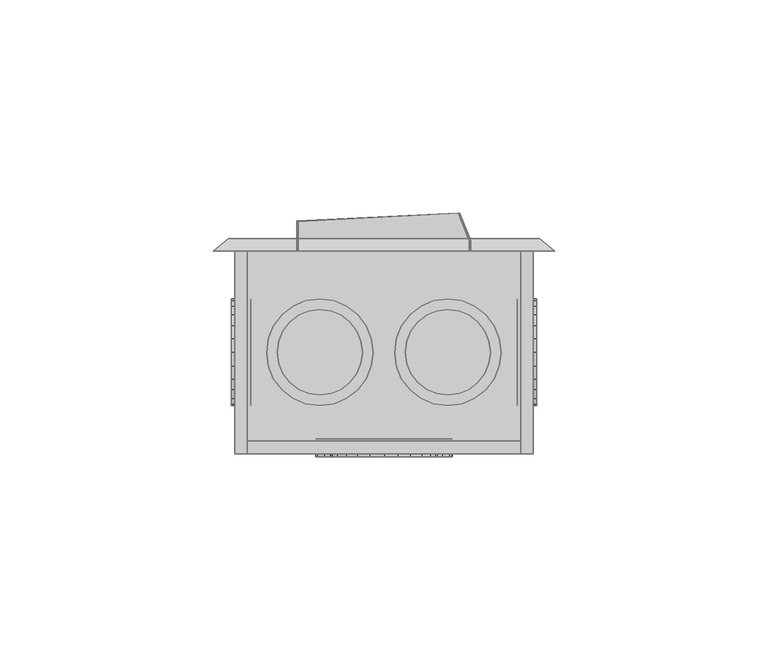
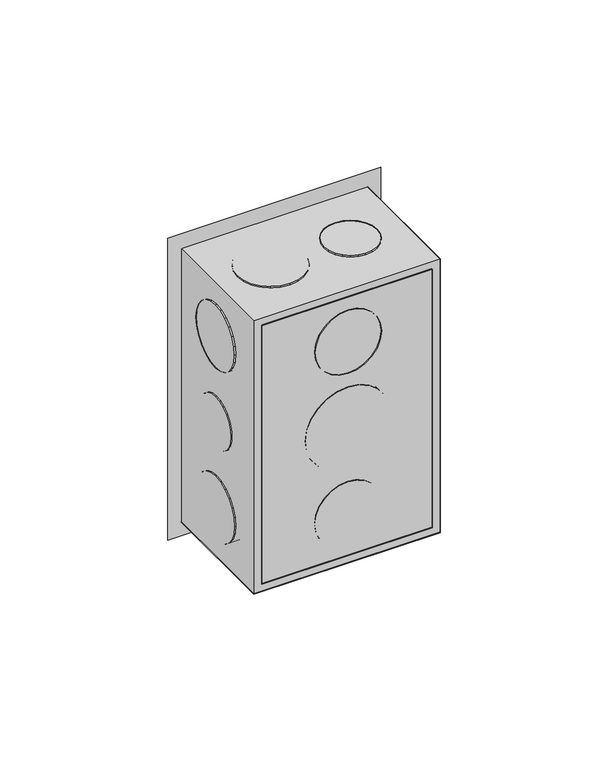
"""IFC4 building model written with IfcOpenShell, lengths in millimetres: proxy geometry,  211059 :  211059."""

from ifc_helpers import new_model, si_unit, origin, place, context, project, spatial, triangles, source, transform, mapped, element, save


def generic_models_d2d7d152(model_context):
    return source(origin(), model_context, "Body", "Tessellation", [
        triangles([(13107.0999573, 13245.8996246, 1254.3000378), (13110.0997742, 13245.8996246, 1148.7000154), (13107.0999573, 13245.8996246, 1145.6999805), (13110.0997742, 13245.8996246, 1251.2999302), (13177.1003357, 13245.8996246, 1254.3000378), (13174.1005188, 13245.8996246, 1251.2999302), (13177.1003357, 13245.8996246, 1145.6999805), (13174.1005188, 13245.8996246, 1148.7000154), (13110.0997742, 13198.4001984, 1251.2999302), (13110.0997742, 13198.4001984, 1148.7000154), (13177.1003357, 13198.4001984, 1254.3000378), (13177.1003357, 13198.4001984, 1145.6999805), (13174.1005188, 13198.4001984, 1251.2999302), (13107.0999573, 13198.4001984, 1145.6999805), (13174.1005188, 13198.4001984, 1148.7000154), (13107.0999573, 13198.4001984, 1254.3000378), (13110.0997742, 13201.4000153, 1251.2999302), (13174.1005188, 13201.4000153, 1148.7000154), (13110.0997742, 13201.4000153, 1148.7000154), (13174.1005188, 13201.4000153, 1251.2999302), (13134.099472, 13197.7002411, 1186.0999855), (13128.1998322, 13197.7002411, 1191.9999887), (13130.7996735, 13197.7002411, 1188.6999722), (13137.9004028, 13197.7002411, 1184.5000105), (13126.5999298, 13197.7002411, 1195.8999687), (13142.1001465, 13197.7002411, 1183.9999683), (13126.0999603, 13197.7002411, 1200.0000092), (13146.1998962, 13197.7002411, 1184.5000105), (13126.5999298, 13197.7002411, 1204.0999769), (13150.0996582, 13197.7002411, 1186.0999855), (13128.1998322, 13197.7002411, 1208.0000296), (13153.3994568, 13197.7002411, 1188.6999722), (13130.7996735, 13197.7002411, 1211.2999735), (13155.9004669, 13197.7002411, 1191.9999887), (13134.099472, 13197.7002411, 1213.9000328), (13157.5003693, 13197.7002411, 1195.8999687), (13137.9004028, 13197.7002411, 1215.5000078), (13158.1003326, 13197.7002411, 1200.0000092), (13142.1001465, 13197.7002411, 1215.9999773), (13157.5003693, 13197.7002411, 1204.0999769), (13146.1998962, 13197.7002411, 1215.5000078), (13155.9004669, 13197.7002411, 1208.0000296), (13150.0996582, 13197.7002411, 1213.9000328), (13153.3994568, 13197.7002411, 1211.2999735), (13137.9004028, 13201.8999847, 1215.5000078), (13142.1001465, 13201.8999847, 1215.9999773), (13134.099472, 13201.8999847, 1213.9000328), (13130.7996735, 13201.8999847, 1211.2999735), (13128.1998322, 13201.8999847, 1208.0000296), (13126.5999298, 13201.8999847, 1204.0999769), (13126.0999603, 13201.8999847, 1200.0000092), (13126.5999298, 13201.8999847, 1195.8999687), (13128.1998322, 13201.8999847, 1191.9999887), (13130.7996735, 13201.8999847, 1188.6999722), (13134.099472, 13201.8999847, 1186.0999855), (13137.9004028, 13201.8999847, 1184.5000105), (13142.1001465, 13201.8999847, 1183.9999683), (13146.1998962, 13201.8999847, 1184.5000105), (13150.0996582, 13201.8999847, 1186.0999855), (13153.3994568, 13201.8999847, 1188.6999722), (13155.9004669, 13201.8999847, 1191.9999887), (13157.5003693, 13201.8999847, 1195.8999687), (13158.1003326, 13201.8999847, 1200.0000092), (13157.5003693, 13201.8999847, 1204.0999769), (13155.9004669, 13201.8999847, 1208.0000296), (13153.3994568, 13201.8999847, 1211.2999735), (13150.0996582, 13201.8999847, 1213.9000328), (13146.1998962, 13201.8999847, 1215.5000078), (13131.199649, 13201.8999847, 1227.8000565), (13135.800531, 13201.8999847, 1223.2000465), (13133.199527, 13201.8999847, 1225.2000698), (13129.9997223, 13201.8999847, 1230.8000187), (13138.8003479, 13201.8999847, 1221.8999805), (13129.5997467, 13201.8999847, 1233.9999687), (13142.1001465, 13201.8999847, 1221.500005), (13129.9997223, 13201.8999847, 1237.2000641), (13145.2999512, 13201.8999847, 1221.8999805), (13131.199649, 13201.8999847, 1240.3000202), (13148.2997681, 13201.8999847, 1223.2000465), (13133.199527, 13201.8999847, 1242.800013), (13150.8996094, 13201.8999847, 1225.2000698), (13152.8994873, 13201.8999847, 1227.8000565), (13135.800531, 13201.8999847, 1244.8000362), (13138.8003479, 13201.8999847, 1246.0999569), (13154.1005768, 13201.8999847, 1230.8000187), (13142.1001465, 13201.8999847, 1246.4999325), (13154.6005463, 13201.8999847, 1233.9999687), (13145.2999512, 13201.8999847, 1246.0999569), (13154.1005768, 13201.8999847, 1237.2000641), (13152.8994873, 13201.8999847, 1240.3000202), (13148.2997681, 13201.8999847, 1244.8000362), (13150.8996094, 13201.8999847, 1242.800013), (13154.1005768, 13197.7002411, 1230.8000187), (13152.8994873, 13197.7002411, 1227.8000565), (13150.8996094, 13197.7002411, 1225.2000698), (13148.2997681, 13197.7002411, 1223.2000465), (13145.2999512, 13197.7002411, 1221.8999805), (13142.1001465, 13197.7002411, 1221.500005), (13138.8003479, 13197.7002411, 1221.8999805), (13135.800531, 13197.7002411, 1223.2000465), (13133.199527, 13197.7002411, 1225.2000698), (13131.199649, 13197.7002411, 1227.8000565), (13129.9997223, 13197.7002411, 1230.8000187), (13129.5997467, 13197.7002411, 1233.9999687), (13129.9997223, 13197.7002411, 1237.2000641), (13131.199649, 13197.7002411, 1240.3000202), (13133.199527, 13197.7002411, 1242.800013), (13135.800531, 13197.7002411, 1244.8000362), (13138.8003479, 13197.7002411, 1246.0999569), (13142.1001465, 13197.7002411, 1246.4999325), (13145.2999512, 13197.7002411, 1246.0999569), (13148.2997681, 13197.7002411, 1244.8000362), (13150.8996094, 13197.7002411, 1242.800013), (13152.8994873, 13197.7002411, 1240.3000202), (13154.1005768, 13197.7002411, 1237.2000641), (13154.6005463, 13197.7002411, 1233.9999687), (13135.800531, 13197.7002411, 1155.1999821), (13131.199649, 13197.7002411, 1159.6999981), (13133.199527, 13197.7002411, 1157.2000053), (13138.8003479, 13197.7002411, 1153.8999887), (13129.9997223, 13197.7002411, 1162.8000269), (13142.1001465, 13197.7002411, 1153.5000132), (13129.5997467, 13197.7002411, 1165.9999769), (13145.2999512, 13197.7002411, 1153.8999887), (13129.9997223, 13197.7002411, 1169.1999996), (13148.2997681, 13197.7002411, 1155.1999821), (13131.199649, 13197.7002411, 1172.2000345), (13150.8996094, 13197.7002411, 1157.2000053), (13133.199527, 13197.7002411, 1174.8000212), (13152.8994873, 13197.7002411, 1159.6999981), (13135.800531, 13197.7002411, 1176.7999718), (13154.1005768, 13197.7002411, 1162.8000269), (13138.8003479, 13197.7002411, 1178.0999651), (13142.1001465, 13197.7002411, 1178.5000134), (13154.6005463, 13197.7002411, 1165.9999769), (13154.1005768, 13197.7002411, 1169.1999996), (13145.2999512, 13197.7002411, 1178.0999651), (13152.8994873, 13197.7002411, 1172.2000345), (13148.2997681, 13197.7002411, 1176.7999718), (13150.8996094, 13197.7002411, 1174.8000212), (13138.8003479, 13201.8999847, 1178.0999651), (13142.1001465, 13201.8999847, 1178.5000134), (13135.800531, 13201.8999847, 1176.7999718), (13133.199527, 13201.8999847, 1174.8000212), (13131.199649, 13201.8999847, 1172.2000345), (13129.9997223, 13201.8999847, 1169.1999996), (13129.5997467, 13201.8999847, 1165.9999769), (13129.9997223, 13201.8999847, 1162.8000269), (13131.199649, 13201.8999847, 1159.6999981), (13133.199527, 13201.8999847, 1157.2000053), (13135.800531, 13201.8999847, 1155.1999821), (13138.8003479, 13201.8999847, 1153.8999887), (13142.1001465, 13201.8999847, 1153.5000132), (13145.2999512, 13201.8999847, 1153.8999887), (13148.2997681, 13201.8999847, 1155.1999821), (13150.8996094, 13201.8999847, 1157.2000053), (13152.8994873, 13201.8999847, 1159.6999981), (13154.1005768, 13201.8999847, 1162.8000269), (13154.6005463, 13201.8999847, 1165.9999769), (13154.1005768, 13201.8999847, 1169.1999996), (13152.8994873, 13201.8999847, 1172.2000345), (13150.8996094, 13201.8999847, 1174.8000212), (13148.2997681, 13201.8999847, 1176.7999718), (13145.2999512, 13201.8999847, 1178.0999651), (13106.3000061, 13213.5004395, 1195.0000237), (13106.3000061, 13217.2002136, 1191.3000315), (13106.3000061, 13215.1003418, 1192.9000065), (13106.3000061, 13212.5005005, 1197.4000225), (13106.3000061, 13219.6000671, 1190.3000198), (13106.3000061, 13212.2005188, 1200.0000092), (13106.3000061, 13222.1999084, 1189.9999655), (13106.3000061, 13212.5005005, 1202.5999958), (13106.3000061, 13224.7997498, 1190.3000198), (13106.3000061, 13213.5004395, 1204.9999947), (13106.3000061, 13227.1996033, 1191.3000315), (13106.3000061, 13215.1003418, 1207.1000118), (13106.3000061, 13229.2994751, 1192.9000065), (13106.3000061, 13217.2002136, 1208.6999868), (13106.3000061, 13230.9005402, 1195.0000237), (13106.3000061, 13219.6000671, 1209.6999985), (13106.3000061, 13231.9004791, 1197.4000225), (13106.3000061, 13232.2004608, 1200.0000092), (13106.3000061, 13222.1999084, 1209.9999802), (13106.3000061, 13224.7997498, 1209.6999985), (13106.3000061, 13231.9004791, 1202.5999958), (13106.3000061, 13227.1996033, 1208.6999868), (13106.3000061, 13230.9005402, 1204.9999947), (13106.3000061, 13229.2994751, 1207.1000118), (13110.8997253, 13219.6000671, 1209.6999985), (13110.8997253, 13222.1999084, 1209.9999802), (13110.8997253, 13224.7997498, 1209.6999985), (13110.8997253, 13227.1996033, 1208.6999868), (13110.8997253, 13229.2994751, 1207.1000118), (13110.8997253, 13230.9005402, 1204.9999947), (13110.8997253, 13231.9004791, 1202.5999958), (13110.8997253, 13232.2004608, 1200.0000092), (13110.8997253, 13231.9004791, 1197.4000225), (13110.8997253, 13230.9005402, 1195.0000237), (13110.8997253, 13229.2994751, 1192.9000065), (13110.8997253, 13227.1996033, 1191.3000315), (13110.8997253, 13224.7997498, 1190.3000198), (13110.8997253, 13222.1999084, 1189.9999655), (13110.8997253, 13219.6000671, 1190.3000198), (13110.8997253, 13217.2002136, 1191.3000315), (13110.8997253, 13215.1003418, 1192.9000065), (13110.8997253, 13213.5004395, 1195.0000237), (13110.8997253, 13212.5005005, 1197.4000225), (13110.8997253, 13212.2005188, 1200.0000092), (13110.8997253, 13212.5005005, 1202.5999958), (13110.8997253, 13213.5004395, 1204.9999947), (13110.8997253, 13215.1003418, 1207.1000118), (13110.8997253, 13217.2002136, 1208.6999868), (13110.8997253, 13215.900293, 1223.2000465), (13110.8997253, 13211.4005676, 1227.8000565), (13110.8997253, 13213.4004456, 1225.2000698), (13110.8997253, 13219.0001038, 1221.8999805), (13110.8997253, 13210.0994843, 1230.8000187), (13110.8997253, 13209.6995087, 1233.9999687), (13110.8997253, 13222.1999084, 1221.500005), (13110.8997253, 13225.3997131, 1221.8999805), (13110.8997253, 13210.0994843, 1237.2000641), (13110.8997253, 13211.4005676, 1240.3000202), (13110.8997253, 13228.39953, 1223.2000465), (13110.8997253, 13231.0005341, 1225.2000698), (13110.8997253, 13213.4004456, 1242.800013), (13110.8997253, 13233.000412, 1227.8000565), (13110.8997253, 13215.900293, 1244.8000362), (13110.8997253, 13234.3003326, 1230.8000187), (13110.8997253, 13219.0001038, 1246.0999569), (13110.8997253, 13234.7003082, 1233.9999687), (13110.8997253, 13222.1999084, 1246.4999325), (13110.8997253, 13234.3003326, 1237.2000641), (13110.8997253, 13225.3997131, 1246.0999569), (13110.8997253, 13233.000412, 1240.3000202), (13110.8997253, 13228.39953, 1244.8000362), (13110.8997253, 13231.0005341, 1242.800013), (13106.3000061, 13222.1999084, 1221.500005), (13106.3000061, 13219.0001038, 1221.8999805), (13106.3000061, 13225.3997131, 1221.8999805), (13106.3000061, 13228.39953, 1223.2000465), (13106.3000061, 13231.0005341, 1225.2000698), (13106.3000061, 13233.000412, 1227.8000565), (13106.3000061, 13234.3003326, 1230.8000187), (13106.3000061, 13234.7003082, 1233.9999687), (13106.3000061, 13234.3003326, 1237.2000641), (13106.3000061, 13233.000412, 1240.3000202), (13106.3000061, 13231.0005341, 1242.800013), (13106.3000061, 13228.39953, 1244.8000362), (13106.3000061, 13225.3997131, 1246.0999569), (13106.3000061, 13222.1999084, 1246.4999325), (13106.3000061, 13219.0001038, 1246.0999569), (13106.3000061, 13215.900293, 1244.8000362), (13106.3000061, 13213.4004456, 1242.800013), (13106.3000061, 13211.4005676, 1240.3000202), (13106.3000061, 13210.0994843, 1237.2000641), (13106.3000061, 13209.6995087, 1233.9999687), (13106.3000061, 13210.0994843, 1230.8000187), (13106.3000061, 13211.4005676, 1227.8000565), (13106.3000061, 13213.4004456, 1225.2000698), (13106.3000061, 13215.900293, 1223.2000465), (13106.3000061, 13211.4005676, 1159.6999981), (13106.3000061, 13215.900293, 1155.1999821), (13106.3000061, 13213.4004456, 1157.2000053), (13106.3000061, 13210.0994843, 1162.8000269), (13106.3000061, 13219.0001038, 1153.8999887), (13106.3000061, 13209.6995087, 1165.9999769), (13106.3000061, 13222.1999084, 1153.5000132), (13106.3000061, 13210.0994843, 1169.1999996), (13106.3000061, 13225.3997131, 1153.8999887), (13106.3000061, 13211.4005676, 1172.2000345), (13106.3000061, 13228.39953, 1155.1999821), (13106.3000061, 13213.4004456, 1174.8000212), (13106.3000061, 13231.0005341, 1157.2000053), (13106.3000061, 13215.900293, 1176.7999718), (13106.3000061, 13233.000412, 1159.6999981), (13106.3000061, 13219.0001038, 1178.0999651), (13106.3000061, 13234.3003326, 1162.8000269), (13106.3000061, 13222.1999084, 1178.5000134), (13106.3000061, 13234.7003082, 1165.9999769), (13106.3000061, 13225.3997131, 1178.0999651), (13106.3000061, 13234.3003326, 1169.1999996), (13106.3000061, 13228.39953, 1176.7999718), (13106.3000061, 13233.000412, 1172.2000345), (13106.3000061, 13231.0005341, 1174.8000212), (13110.8997253, 13219.0001038, 1178.0999651), (13110.8997253, 13222.1999084, 1178.5000134), (13110.8997253, 13225.3997131, 1178.0999651), (13110.8997253, 13228.39953, 1176.7999718), (13110.8997253, 13231.0005341, 1174.8000212), (13110.8997253, 13233.000412, 1172.2000345), (13110.8997253, 13234.3003326, 1169.1999996), (13110.8997253, 13234.7003082, 1165.9999769), (13110.8997253, 13234.3003326, 1162.8000269), (13110.8997253, 13233.000412, 1159.6999981), (13110.8997253, 13231.0005341, 1157.2000053), (13110.8997253, 13228.39953, 1155.1999821), (13110.8997253, 13225.3997131, 1153.8999887), (13110.8997253, 13222.1999084, 1153.5000132), (13110.8997253, 13219.0001038, 1153.8999887), (13110.8997253, 13215.900293, 1155.1999821), (13110.8997253, 13213.4004456, 1157.2000053), (13110.8997253, 13211.4005676, 1159.6999981), (13110.8997253, 13210.0994843, 1162.8000269), (13110.8997253, 13209.6995087, 1165.9999769), (13110.8997253, 13210.0994843, 1169.1999996), (13110.8997253, 13211.4005676, 1172.2000345), (13110.8997253, 13213.4004456, 1174.8000212), (13110.8997253, 13215.900293, 1176.7999718), (13177.9002869, 13217.2002136, 1191.3000315), (13177.9002869, 13213.5004395, 1195.0000237), (13177.9002869, 13215.1003418, 1192.9000065), (13177.9002869, 13212.5005005, 1197.4000225), (13177.9002869, 13219.6000671, 1190.3000198), (13177.9002869, 13212.2005188, 1200.0000092), (13177.9002869, 13222.1999084, 1189.9999655), (13177.9002869, 13224.7997498, 1190.3000198), (13177.9002869, 13212.5005005, 1202.5999958), (13177.9002869, 13213.5004395, 1204.9999947), (13177.9002869, 13227.1996033, 1191.3000315), (13177.9002869, 13215.1003418, 1207.1000118), (13177.9002869, 13229.2994751, 1192.9000065), (13177.9002869, 13230.9005402, 1195.0000237), (13177.9002869, 13217.2002136, 1208.6999868), (13177.9002869, 13231.9004791, 1197.4000225), (13177.9002869, 13219.6000671, 1209.6999985), (13177.9002869, 13232.2004608, 1200.0000092), (13177.9002869, 13222.1999084, 1209.9999802), (13177.9002869, 13231.9004791, 1202.5999958), (13177.9002869, 13224.7997498, 1209.6999985), (13177.9002869, 13227.1996033, 1208.6999868), (13177.9002869, 13230.9005402, 1204.9999947), (13177.9002869, 13229.2994751, 1207.1000118), (13173.3005676, 13219.6000671, 1190.3000198), (13173.3005676, 13217.2002136, 1191.3000315), (13173.3005676, 13222.1999084, 1189.9999655), (13173.3005676, 13224.7997498, 1190.3000198), (13173.3005676, 13227.1996033, 1191.3000315), (13173.3005676, 13229.2994751, 1192.9000065), (13173.3005676, 13230.9005402, 1195.0000237), (13173.3005676, 13231.9004791, 1197.4000225), (13173.3005676, 13232.2004608, 1200.0000092), (13173.3005676, 13231.9004791, 1202.5999958), (13173.3005676, 13230.9005402, 1204.9999947), (13173.3005676, 13229.2994751, 1207.1000118), (13173.3005676, 13227.1996033, 1208.6999868), (13173.3005676, 13224.7997498, 1209.6999985), (13173.3005676, 13222.1999084, 1209.9999802), (13173.3005676, 13219.6000671, 1209.6999985), (13173.3005676, 13217.2002136, 1208.6999868), (13173.3005676, 13215.1003418, 1207.1000118), (13173.3005676, 13213.5004395, 1204.9999947), (13173.3005676, 13212.5005005, 1202.5999958), (13173.3005676, 13212.2005188, 1200.0000092), (13173.3005676, 13212.5005005, 1197.4000225), (13173.3005676, 13213.5004395, 1195.0000237), (13173.3005676, 13215.1003418, 1192.9000065), (13173.3005676, 13211.4005676, 1159.6999981), (13173.3005676, 13215.900293, 1155.1999821), (13173.3005676, 13213.4004456, 1157.2000053), (13173.3005676, 13210.0994843, 1162.8000269), (13173.3005676, 13219.0001038, 1153.8999887), (13173.3005676, 13209.6995087, 1165.9999769), (13173.3005676, 13222.1999084, 1153.5000132), (13173.3005676, 13210.0994843, 1169.1999996), (13173.3005676, 13225.3997131, 1153.8999887), (13173.3005676, 13211.4005676, 1172.2000345), (13173.3005676, 13228.39953, 1155.1999821), (13173.3005676, 13213.4004456, 1174.8000212), (13173.3005676, 13231.0005341, 1157.2000053), (13173.3005676, 13215.900293, 1176.7999718), (13173.3005676, 13233.000412, 1159.6999981), (13173.3005676, 13219.0001038, 1178.0999651), (13173.3005676, 13234.3003326, 1162.8000269), (13173.3005676, 13222.1999084, 1178.5000134), (13173.3005676, 13234.7003082, 1165.9999769), (13173.3005676, 13225.3997131, 1178.0999651), (13173.3005676, 13234.3003326, 1169.1999996), (13173.3005676, 13228.39953, 1176.7999718), (13173.3005676, 13233.000412, 1172.2000345), (13173.3005676, 13231.0005341, 1174.8000212), (13177.9002869, 13219.0001038, 1178.0999651), (13177.9002869, 13222.1999084, 1178.5000134), (13177.9002869, 13225.3997131, 1178.0999651), (13177.9002869, 13228.39953, 1176.7999718), (13177.9002869, 13231.0005341, 1174.8000212), (13177.9002869, 13233.000412, 1172.2000345), (13177.9002869, 13234.3003326, 1169.1999996), (13177.9002869, 13234.7003082, 1165.9999769), (13177.9002869, 13234.3003326, 1162.8000269), (13177.9002869, 13233.000412, 1159.6999981), (13177.9002869, 13231.0005341, 1157.2000053), (13177.9002869, 13228.39953, 1155.1999821), (13177.9002869, 13225.3997131, 1153.8999887), (13177.9002869, 13222.1999084, 1153.5000132), (13177.9002869, 13219.0001038, 1153.8999887), (13177.9002869, 13215.900293, 1155.1999821), (13177.9002869, 13213.4004456, 1157.2000053), (13177.9002869, 13211.4005676, 1159.6999981), (13177.9002869, 13210.0994843, 1162.8000269), (13177.9002869, 13209.6995087, 1165.9999769), (13177.9002869, 13210.0994843, 1169.1999996), (13177.9002869, 13211.4005676, 1172.2000345), (13177.9002869, 13213.4004456, 1174.8000212), (13177.9002869, 13215.900293, 1176.7999718), (13177.9002869, 13215.900293, 1223.2000465), (13177.9002869, 13211.4005676, 1227.8000565), (13177.9002869, 13213.4004456, 1225.2000698), (13177.9002869, 13219.0001038, 1221.8999805), (13177.9002869, 13210.0994843, 1230.8000187), (13177.9002869, 13209.6995087, 1233.9999687), (13177.9002869, 13222.1999084, 1221.500005), (13177.9002869, 13225.3997131, 1221.8999805), (13177.9002869, 13210.0994843, 1237.2000641), (13177.9002869, 13211.4005676, 1240.3000202), (13177.9002869, 13228.39953, 1223.2000465), (13177.9002869, 13231.0005341, 1225.2000698), (13177.9002869, 13213.4004456, 1242.800013), (13177.9002869, 13233.000412, 1227.8000565), (13177.9002869, 13215.900293, 1244.8000362), (13177.9002869, 13234.3003326, 1230.8000187), (13177.9002869, 13219.0001038, 1246.0999569), (13177.9002869, 13234.7003082, 1233.9999687), (13177.9002869, 13222.1999084, 1246.4999325), (13177.9002869, 13234.3003326, 1237.2000641), (13177.9002869, 13225.3997131, 1246.0999569), (13177.9002869, 13233.000412, 1240.3000202), (13177.9002869, 13228.39953, 1244.8000362), (13177.9002869, 13231.0005341, 1242.800013), (13173.3005676, 13222.1999084, 1221.500005), (13173.3005676, 13219.0001038, 1221.8999805), (13173.3005676, 13225.3997131, 1221.8999805), (13173.3005676, 13228.39953, 1223.2000465), (13173.3005676, 13231.0005341, 1225.2000698), (13173.3005676, 13233.000412, 1227.8000565), (13173.3005676, 13234.3003326, 1230.8000187), (13173.3005676, 13234.7003082, 1233.9999687), (13173.3005676, 13234.3003326, 1237.2000641), (13173.3005676, 13233.000412, 1240.3000202), (13173.3005676, 13231.0005341, 1242.800013), (13173.3005676, 13228.39953, 1244.8000362), (13173.3005676, 13225.3997131, 1246.0999569), (13173.3005676, 13222.1999084, 1246.4999325), (13173.3005676, 13219.0001038, 1246.0999569), (13173.3005676, 13215.900293, 1244.8000362), (13173.3005676, 13213.4004456, 1242.800013), (13173.3005676, 13211.4005676, 1240.3000202), (13173.3005676, 13210.0994843, 1237.2000641), (13173.3005676, 13209.6995087, 1233.9999687), (13173.3005676, 13210.0994843, 1230.8000187), (13173.3005676, 13211.4005676, 1227.8000565), (13173.3005676, 13213.4004456, 1225.2000698), (13173.3005676, 13215.900293, 1223.2000465), (13120.8002838, 13211.4005676, 1255.1999828), (13116.2005646, 13215.900293, 1255.1999828), (13118.2004425, 13213.4004456, 1255.1999828), (13114.9994751, 13219.0001038, 1255.1999828), (13123.8001007, 13210.0994843, 1255.1999828), (13127.0998993, 13209.6995087, 1255.1999828), (13114.5994995, 13222.1999084, 1255.1999828), (13114.9994751, 13225.3997131, 1255.1999828), (13130.299704, 13210.0994843, 1255.1999828), (13133.2995209, 13211.4005676, 1255.1999828), (13116.2005646, 13228.39953, 1255.1999828), (13118.2004425, 13231.0005341, 1255.1999828), (13135.9005249, 13213.4004456, 1255.1999828), (13137.9004028, 13215.900293, 1255.1999828), (13120.8002838, 13233.000412, 1255.1999828), (13123.8001007, 13234.3003326, 1255.1999828), (13139.1003296, 13219.0001038, 1255.1999828), (13127.0998993, 13234.7003082, 1255.1999828), (13139.6002991, 13222.1999084, 1255.1999828), (13130.299704, 13234.3003326, 1255.1999828), (13139.1003296, 13225.3997131, 1255.1999828), (13137.9004028, 13228.39953, 1255.1999828), (13133.2995209, 13233.000412, 1255.1999828), (13135.9005249, 13231.0005341, 1255.1999828), (13127.0998993, 13234.7003082, 1250.9999485), (13123.8001007, 13234.3003326, 1250.9999485), (13120.8002838, 13233.000412, 1250.9999485), (13118.2004425, 13231.0005341, 1250.9999485), (13116.2005646, 13228.39953, 1250.9999485), (13114.9994751, 13225.3997131, 1250.9999485), (13114.5994995, 13222.1999084, 1250.9999485), (13114.9994751, 13219.0001038, 1250.9999485), (13116.2005646, 13215.900293, 1250.9999485), (13118.2004425, 13213.4004456, 1250.9999485), (13120.8002838, 13211.4005676, 1250.9999485), (13123.8001007, 13210.0994843, 1250.9999485), (13127.0998993, 13209.6995087, 1250.9999485), (13130.299704, 13210.0994843, 1250.9999485), (13133.2995209, 13211.4005676, 1250.9999485), (13135.9005249, 13213.4004456, 1250.9999485), (13137.9004028, 13215.900293, 1250.9999485), (13139.1003296, 13219.0001038, 1250.9999485), (13139.6002991, 13222.1999084, 1250.9999485), (13139.1003296, 13225.3997131, 1250.9999485), (13137.9004028, 13228.39953, 1250.9999485), (13135.9005249, 13231.0005341, 1250.9999485), (13133.2995209, 13233.000412, 1250.9999485), (13130.299704, 13234.3003326, 1250.9999485), (13148.399762, 13217.2002136, 1250.9999485), (13152.0995361, 13213.5004395, 1250.9999485), (13149.9996643, 13215.1003418, 1250.9999485), (13154.5005524, 13212.5005005, 1250.9999485), (13147.399823, 13219.6000671, 1250.9999485), (13157.1003937, 13212.2005188, 1250.9999485), (13147.0998413, 13222.1999084, 1250.9999485), (13147.399823, 13224.7997498, 1250.9999485), (13159.700235, 13212.5005005, 1250.9999485), (13162.1000885, 13213.5004395, 1250.9999485), (13148.399762, 13227.1996033, 1250.9999485), (13164.0999664, 13215.1003418, 1250.9999485), (13149.9996643, 13229.2994751, 1250.9999485), (13152.0995361, 13230.9005402, 1250.9999485), (13165.6998688, 13217.2002136, 1250.9999485), (13166.6998077, 13219.6000671, 1250.9999485), (13154.5005524, 13231.9004791, 1250.9999485), (13157.1003937, 13232.2004608, 1250.9999485), (13167.0997833, 13222.1999084, 1250.9999485), (13159.700235, 13231.9004791, 1250.9999485), (13166.6998077, 13224.7997498, 1250.9999485), (13162.1000885, 13230.9005402, 1250.9999485), (13165.6998688, 13227.1996033, 1250.9999485), (13164.0999664, 13229.2994751, 1250.9999485), (13159.700235, 13212.5005005, 1255.1999828), (13162.1000885, 13213.5004395, 1255.1999828), (13157.1003937, 13212.2005188, 1255.1999828), (13154.5005524, 13212.5005005, 1255.1999828), (13152.0995361, 13213.5004395, 1255.1999828), (13149.9996643, 13215.1003418, 1255.1999828), (13148.399762, 13217.2002136, 1255.1999828), (13147.399823, 13219.6000671, 1255.1999828), (13147.0998413, 13222.1999084, 1255.1999828), (13147.399823, 13224.7997498, 1255.1999828), (13148.399762, 13227.1996033, 1255.1999828), (13149.9996643, 13229.2994751, 1255.1999828), (13152.0995361, 13230.9005402, 1255.1999828), (13154.5005524, 13231.9004791, 1255.1999828), (13157.1003937, 13232.2004608, 1255.1999828), (13159.700235, 13231.9004791, 1255.1999828), (13162.1000885, 13230.9005402, 1255.1999828), (13164.0999664, 13229.2994751, 1255.1999828), (13165.6998688, 13227.1996033, 1255.1999828), (13166.6998077, 13224.7997498, 1255.1999828), (13167.0997833, 13222.1999084, 1255.1999828), (13166.6998077, 13219.6000671, 1255.1999828), (13165.6998688, 13217.2002136, 1255.1999828), (13164.0999664, 13215.1003418, 1255.1999828), (13118.4004303, 13217.2002136, 1144.8000355), (13122.1002045, 13213.5004395, 1144.8000355), (13120.0003326, 13215.1003418, 1144.8000355), (13124.500058, 13212.5005005, 1144.8000355), (13117.4004913, 13219.6000671, 1144.8000355), (13127.0998993, 13212.2005188, 1144.8000355), (13117.1005096, 13222.1999084, 1144.8000355), (13117.4004913, 13224.7997498, 1144.8000355), (13129.6997406, 13212.5005005, 1144.8000355), (13132.0995941, 13213.5004395, 1144.8000355), (13118.4004303, 13227.1996033, 1144.8000355), (13134.099472, 13215.1003418, 1144.8000355), (13120.0003326, 13229.2994751, 1144.8000355), (13122.1002045, 13230.9005402, 1144.8000355), (13135.7005371, 13217.2002136, 1144.8000355), (13136.7004761, 13219.6000671, 1144.8000355), (13124.500058, 13231.9004791, 1144.8000355), (13127.0998993, 13232.2004608, 1144.8000355), (13137.1004517, 13222.1999084, 1144.8000355), (13129.6997406, 13231.9004791, 1144.8000355), (13136.7004761, 13224.7997498, 1144.8000355), (13132.0995941, 13230.9005402, 1144.8000355), (13135.7005371, 13227.1996033, 1144.8000355), (13134.099472, 13229.2994751, 1144.8000355), (13124.500058, 13212.5005005, 1149.099991), (13127.0998993, 13212.2005188, 1149.099991), (13122.1002045, 13213.5004395, 1149.099991), (13120.0003326, 13215.1003418, 1149.099991), (13118.4004303, 13217.2002136, 1149.099991), (13117.4004913, 13219.6000671, 1149.099991), (13117.1005096, 13222.1999084, 1149.099991), (13117.4004913, 13224.7997498, 1149.099991), (13118.4004303, 13227.1996033, 1149.099991), (13120.0003326, 13229.2994751, 1149.099991), (13122.1002045, 13230.9005402, 1149.099991), (13124.500058, 13231.9004791, 1149.099991), (13127.0998993, 13232.2004608, 1149.099991), (13129.6997406, 13231.9004791, 1149.099991), (13132.0995941, 13230.9005402, 1149.099991), (13134.099472, 13229.2994751, 1149.099991), (13135.7005371, 13227.1996033, 1149.099991), (13136.7004761, 13224.7997498, 1149.099991), (13137.1004517, 13222.1999084, 1149.099991), (13136.7004761, 13219.6000671, 1149.099991), (13135.7005371, 13217.2002136, 1149.099991), (13134.099472, 13215.1003418, 1149.099991), (13132.0995941, 13213.5004395, 1149.099991), (13129.6997406, 13212.5005005, 1149.099991), (13146.1998962, 13215.900293, 1144.8000355), (13150.7996155, 13211.4005676, 1144.8000355), (13148.1997742, 13213.4004456, 1144.8000355), (13144.9999695, 13219.0001038, 1144.8000355), (13153.7994324, 13210.0994843, 1144.8000355), (13157.1003937, 13209.6995087, 1144.8000355), (13144.5999939, 13222.1999084, 1144.8000355), (13144.9999695, 13225.3997131, 1144.8000355), (13160.3001984, 13210.0994843, 1144.8000355), (13163.3000153, 13211.4005676, 1144.8000355), (13146.1998962, 13228.39953, 1144.8000355), (13148.1997742, 13231.0005341, 1144.8000355), (13165.8998566, 13213.4004456, 1144.8000355), (13167.8997345, 13215.900293, 1144.8000355), (13150.7996155, 13233.000412, 1144.8000355), (13153.7994324, 13234.3003326, 1144.8000355), (13169.0996613, 13219.0001038, 1144.8000355), (13157.1003937, 13234.7003082, 1144.8000355), (13169.5996307, 13222.1999084, 1144.8000355), (13160.3001984, 13234.3003326, 1144.8000355), (13169.0996613, 13225.3997131, 1144.8000355), (13167.8997345, 13228.39953, 1144.8000355), (13163.3000153, 13233.000412, 1144.8000355), (13165.8998566, 13231.0005341, 1144.8000355), (13160.3001984, 13210.0994843, 1149.099991), (13163.3000153, 13211.4005676, 1149.099991), (13157.1003937, 13209.6995087, 1149.099991), (13153.7994324, 13210.0994843, 1149.099991), (13150.7996155, 13211.4005676, 1149.099991), (13148.1997742, 13213.4004456, 1149.099991), (13146.1998962, 13215.900293, 1149.099991), (13144.9999695, 13219.0001038, 1149.099991), (13144.5999939, 13222.1999084, 1149.099991), (13144.9999695, 13225.3997131, 1149.099991), (13146.1998962, 13228.39953, 1149.099991), (13148.1997742, 13231.0005341, 1149.099991), (13150.7996155, 13233.000412, 1149.099991), (13153.7994324, 13234.3003326, 1149.099991), (13157.1003937, 13234.7003082, 1149.099991), (13160.3001984, 13234.3003326, 1149.099991), (13163.3000153, 13233.000412, 1149.099991), (13165.8998566, 13231.0005341, 1149.099991), (13167.8997345, 13228.39953, 1149.099991), (13169.0996613, 13225.3997131, 1149.099991), (13169.5996307, 13222.1999084, 1149.099991), (13169.0996613, 13219.0001038, 1149.099991), (13167.8997345, 13215.900293, 1149.099991), (13165.8998566, 13213.4004456, 1149.099991), (13182.1000305, 13245.8996246, 1139.9999651), (13121.9002167, 13245.8996246, 1164.5999897), (13102.1002625, 13245.8996246, 1139.9999651), (13162.3000763, 13245.8996246, 1164.5999897), (13182.1000305, 13245.8996246, 1259.9999805), (13162.3000763, 13245.8996246, 1188.0000149), (13162.3000763, 13245.8996246, 1211.3999674), (13162.3000763, 13245.8996246, 1234.8000652), (13102.1002625, 13245.8996246, 1259.9999805), (13121.9002167, 13245.8996246, 1188.0000149), (13121.9002167, 13245.8996246, 1211.3999674), (13121.9002167, 13245.8996246, 1234.8000652), (13121.9002167, 13248.8994415, 1188.0000149), (13162.3000763, 13248.8994415, 1188.0000149), (13121.9002167, 13248.8994415, 1234.8000652), (13162.3000763, 13248.8994415, 1234.8000652), (13162.3000763, 13248.8994415, 1164.5999897), (13162.3000763, 13248.8994415, 1211.3999674), (13121.9002167, 13248.8994415, 1164.5999897), (13121.9002167, 13248.8994415, 1211.3999674), (13105.6000488, 13248.8994415, 1143.4999695), (13105.6000488, 13248.8994415, 1256.5000488), (13178.6002441, 13248.8994415, 1143.4999695), (13178.6002441, 13248.8994415, 1256.5000488), (13122.0002106, 13252.9003601, 1211.2999735), (13162.4000702, 13245.8996246, 1211.2999735), (13122.0002106, 13245.8996246, 1211.2999735), (13159.8002289, 13254.8002441, 1211.2999735), (13162.4000702, 13248.399472, 1211.2999735), (13122.0002106, 13245.8996246, 1234.7000713), (13162.4000702, 13245.8996246, 1234.7000713), (13122.0002106, 13252.9003601, 1234.7000713), (13159.8002289, 13254.8002441, 1234.7000713), (13162.4000702, 13248.399472, 1234.7000713), (13121.7002289, 13252.9003601, 1164.6999836), (13162.1000885, 13245.8996246, 1164.6999836), (13121.7002289, 13245.8996246, 1164.6999836), (13159.5002472, 13254.8002441, 1164.6999836), (13162.1000885, 13248.399472, 1164.6999836), (13121.7002289, 13245.8996246, 1188.1000088), (13162.1000885, 13245.8996246, 1188.1000088), (13121.7002289, 13252.9003601, 1188.1000088), (13159.5002472, 13254.8002441, 1188.1000088), (13162.1000885, 13248.399472, 1188.1000088)], [[1, 2, 3], [2, 1, 4], [5, 4, 1], [4, 5, 6], [3, 2, 7], [7, 2, 8], [7, 8, 6], [7, 6, 5], [2, 9, 10], [9, 2, 4], [7, 11, 12], [11, 7, 5], [4, 13, 9], [13, 4, 6], [3, 12, 14], [12, 3, 7], [13, 8, 15], [8, 13, 6], [16, 3, 14], [3, 16, 1], [15, 2, 10], [2, 15, 8], [11, 1, 16], [1, 11, 5], [12, 10, 14], [10, 12, 15], [11, 15, 12], [15, 11, 13], [14, 10, 16], [16, 10, 9], [16, 9, 13], [16, 13, 11], [17, 18, 19], [18, 17, 20], [18, 13, 15], [13, 18, 20], [19, 15, 10], [15, 19, 18], [9, 19, 10], [19, 9, 17], [13, 17, 9], [17, 13, 20], [15, 9, 10], [9, 15, 13], [21, 22, 23], [22, 21, 24], [25, 22, 24], [25, 24, 26], [27, 25, 26], [27, 26, 28], [29, 27, 28], [29, 28, 30], [31, 29, 30], [31, 30, 32], [31, 32, 33], [33, 32, 34], [33, 34, 35], [35, 34, 36], [35, 36, 37], [37, 36, 38], [37, 38, 39], [39, 38, 40], [39, 40, 41], [41, 40, 42], [41, 42, 43], [43, 42, 44], [39, 45, 37], [45, 39, 46], [37, 47, 35], [47, 37, 45], [35, 48, 33], [48, 35, 47], [33, 49, 31], [49, 33, 48], [31, 50, 29], [50, 31, 49], [29, 51, 27], [51, 29, 50], [27, 52, 25], [52, 27, 51], [25, 53, 22], [53, 25, 52], [22, 54, 23], [54, 22, 53], [54, 21, 23], [21, 54, 55], [55, 24, 21], [24, 55, 56], [56, 26, 24], [26, 56, 57], [57, 28, 26], [28, 57, 58], [58, 30, 28], [30, 58, 59], [59, 32, 30], [32, 59, 60], [60, 34, 32], [34, 60, 61], [61, 36, 34], [36, 61, 62], [62, 38, 36], [38, 62, 63], [63, 40, 38], [40, 63, 64], [64, 42, 40], [42, 64, 65], [65, 44, 42], [44, 65, 66], [44, 67, 43], [67, 44, 66], [43, 68, 41], [68, 43, 67], [41, 46, 39], [46, 41, 68], [53, 55, 54], [55, 53, 52], [56, 55, 52], [56, 52, 51], [57, 56, 51], [57, 51, 50], [58, 57, 50], [58, 50, 49], [59, 58, 49], [59, 49, 48], [59, 48, 60], [60, 48, 47], [60, 47, 61], [61, 47, 45], [61, 45, 62], [62, 45, 46], [62, 46, 63], [63, 46, 68], [63, 68, 64], [64, 68, 67], [64, 67, 65], [65, 67, 66], [69, 70, 71], [70, 69, 72], [73, 70, 72], [73, 72, 74], [75, 73, 74], [75, 74, 76], [77, 75, 76], [77, 76, 78], [79, 77, 78], [79, 78, 80], [81, 79, 80], [81, 80, 82], [82, 80, 83], [82, 83, 84], [82, 84, 85], [85, 84, 86], [85, 86, 87], [87, 86, 88], [87, 88, 89], [89, 88, 90], [90, 88, 91], [90, 91, 92], [82, 93, 94], [93, 82, 85], [81, 94, 95], [94, 81, 82], [79, 95, 96], [95, 79, 81], [77, 96, 97], [96, 77, 79], [75, 97, 98], [97, 75, 77], [73, 98, 99], [98, 73, 75], [70, 99, 100], [99, 70, 73], [71, 100, 101], [100, 71, 70], [102, 71, 101], [71, 102, 69], [103, 69, 102], [69, 103, 72], [104, 72, 103], [72, 104, 74], [105, 74, 104], [74, 105, 76], [106, 76, 105], [76, 106, 78], [107, 78, 106], [78, 107, 80], [108, 80, 107], [80, 108, 83], [109, 83, 108], [83, 109, 84], [110, 84, 109], [84, 110, 86], [111, 86, 110], [86, 111, 88], [112, 88, 111], [88, 112, 91], [113, 91, 112], [91, 113, 92], [90, 113, 114], [113, 90, 92], [89, 114, 115], [114, 89, 90], [87, 115, 116], [115, 87, 89], [85, 116, 93], [116, 85, 87], [100, 102, 101], [102, 100, 99], [103, 102, 99], [103, 99, 98], [104, 103, 98], [104, 98, 97], [105, 104, 97], [106, 105, 97], [106, 97, 96], [106, 96, 95], [106, 95, 107], [107, 95, 94], [107, 94, 108], [108, 94, 93], [108, 93, 109], [109, 93, 116], [109, 116, 110], [110, 116, 115], [110, 115, 111], [111, 115, 114], [111, 114, 112], [112, 114, 113], [117, 118, 119], [118, 117, 120], [121, 118, 120], [121, 120, 122], [123, 121, 122], [123, 122, 124], [125, 123, 124], [125, 124, 126], [127, 125, 126], [127, 126, 128], [127, 128, 129], [129, 128, 130], [129, 130, 131], [131, 130, 132], [131, 132, 133], [133, 132, 134], [134, 132, 135], [134, 135, 136], [134, 136, 137], [137, 136, 138], [137, 138, 139], [139, 138, 140], [134, 141, 133], [141, 134, 142], [133, 143, 131], [143, 133, 141], [131, 144, 129], [144, 131, 143], [129, 145, 127], [145, 129, 144], [127, 146, 125], [146, 127, 145], [125, 147, 123], [147, 125, 146], [123, 148, 121], [148, 123, 147], [121, 149, 118], [149, 121, 148], [118, 150, 119], [150, 118, 149], [150, 117, 119], [117, 150, 151], [151, 120, 117], [120, 151, 152], [152, 122, 120], [122, 152, 153], [153, 124, 122], [124, 153, 154], [154, 126, 124], [126, 154, 155], [155, 128, 126], [128, 155, 156], [156, 130, 128], [130, 156, 157], [157, 132, 130], [132, 157, 158], [158, 135, 132], [135, 158, 159], [159, 136, 135], [136, 159, 160], [160, 138, 136], [138, 160, 161], [161, 140, 138], [140, 161, 162], [140, 163, 139], [163, 140, 162], [139, 164, 137], [164, 139, 163], [137, 142, 134], [142, 137, 164], [149, 151, 150], [151, 149, 148], [152, 151, 148], [153, 152, 148], [153, 148, 147], [153, 147, 146], [154, 153, 146], [154, 146, 145], [155, 154, 145], [155, 145, 144], [156, 155, 144], [156, 144, 157], [157, 144, 143], [157, 143, 141], [157, 141, 158], [158, 141, 142], [158, 142, 159], [159, 142, 164], [159, 164, 160], [160, 164, 163], [160, 163, 161], [161, 163, 162], [165, 166, 167], [166, 165, 168], [169, 166, 168], [169, 168, 170], [171, 169, 170], [171, 170, 172], [173, 171, 172], [173, 172, 174], [175, 173, 174], [175, 174, 176], [177, 175, 176], [177, 176, 178], [177, 178, 179], [179, 178, 180], [179, 180, 181], [181, 180, 182], [182, 180, 183], [182, 183, 184], [182, 184, 185], [185, 184, 186], [185, 186, 187], [187, 186, 188], [189, 183, 180], [183, 189, 190], [190, 184, 183], [184, 190, 191], [191, 186, 184], [186, 191, 192], [192, 188, 186], [188, 192, 193], [188, 194, 187], [194, 188, 193], [187, 195, 185], [195, 187, 194], [185, 196, 182], [196, 185, 195], [182, 197, 181], [197, 182, 196], [181, 198, 179], [198, 181, 197], [179, 199, 177], [199, 179, 198], [177, 200, 175], [200, 177, 199], [175, 201, 173], [201, 175, 200], [173, 202, 171], [202, 173, 201], [171, 203, 169], [203, 171, 202], [169, 204, 166], [204, 169, 203], [166, 205, 167], [205, 166, 204], [205, 165, 167], [165, 205, 206], [206, 168, 165], [168, 206, 207], [207, 170, 168], [170, 207, 208], [208, 172, 170], [172, 208, 209], [209, 174, 172], [174, 209, 210], [210, 176, 174], [176, 210, 211], [211, 178, 176], [178, 211, 212], [212, 180, 178], [180, 212, 189], [204, 206, 205], [207, 206, 204], [207, 204, 203], [208, 207, 203], [208, 203, 202], [208, 202, 201], [209, 208, 201], [210, 209, 201], [210, 201, 200], [211, 210, 200], [211, 200, 199], [211, 199, 198], [211, 198, 212], [212, 198, 197], [212, 197, 189], [189, 197, 196], [189, 196, 190], [190, 196, 195], [190, 195, 191], [191, 195, 192], [192, 195, 194], [192, 194, 193], [213, 214, 215], [214, 213, 216], [217, 214, 216], [218, 217, 216], [218, 216, 219], [218, 219, 220], [221, 218, 220], [222, 221, 220], [222, 220, 223], [222, 223, 224], [222, 224, 225], [225, 224, 226], [225, 226, 227], [227, 226, 228], [227, 228, 229], [229, 228, 230], [229, 230, 231], [231, 230, 232], [231, 232, 233], [233, 232, 234], [233, 234, 235], [235, 234, 236], [237, 216, 238], [216, 237, 219], [239, 219, 237], [219, 239, 220], [240, 220, 239], [220, 240, 223], [241, 223, 240], [223, 241, 224], [242, 224, 241], [224, 242, 226], [243, 226, 242], [226, 243, 228], [244, 228, 243], [228, 244, 230], [245, 230, 244], [230, 245, 232], [246, 232, 245], [232, 246, 234], [247, 234, 246], [234, 247, 236], [235, 247, 248], [247, 235, 236], [233, 248, 249], [248, 233, 235], [231, 249, 250], [249, 231, 233], [229, 250, 251], [250, 229, 231], [227, 251, 252], [251, 227, 229], [225, 252, 253], [252, 225, 227], [222, 253, 254], [253, 222, 225], [221, 254, 255], [254, 221, 222], [218, 255, 256], [255, 218, 221], [217, 256, 257], [256, 217, 218], [214, 257, 258], [257, 214, 217], [215, 258, 259], [258, 215, 214], [260, 215, 259], [215, 260, 213], [238, 213, 260], [213, 238, 216], [258, 260, 259], [260, 258, 257], [238, 260, 257], [238, 257, 256], [237, 238, 256], [237, 256, 255], [239, 237, 255], [239, 255, 254], [240, 239, 254], [240, 254, 253], [240, 253, 241], [241, 253, 252], [241, 252, 242], [242, 252, 251], [242, 251, 243], [243, 251, 244], [244, 251, 250], [244, 250, 249], [244, 249, 245], [245, 249, 246], [246, 249, 248], [246, 248, 247], [261, 262, 263], [262, 261, 264], [265, 262, 264], [265, 264, 266], [267, 265, 266], [267, 266, 268], [269, 267, 268], [269, 268, 270], [271, 269, 270], [271, 270, 272], [271, 272, 273], [273, 272, 274], [273, 274, 275], [275, 274, 276], [275, 276, 277], [277, 276, 278], [277, 278, 279], [279, 278, 280], [279, 280, 281], [281, 280, 282], [281, 282, 283], [283, 282, 284], [285, 278, 276], [278, 285, 286], [286, 280, 278], [280, 286, 287], [287, 282, 280], [282, 287, 288], [288, 284, 282], [284, 288, 289], [284, 290, 283], [290, 284, 289], [283, 291, 281], [291, 283, 290], [281, 292, 279], [292, 281, 291], [279, 293, 277], [293, 279, 292], [277, 294, 275], [294, 277, 293], [275, 295, 273], [295, 275, 294], [273, 296, 271], [296, 273, 295], [271, 297, 269], [297, 271, 296], [269, 298, 267], [298, 269, 297], [267, 299, 265], [299, 267, 298], [265, 300, 262], [300, 265, 299], [262, 301, 263], [301, 262, 300], [301, 261, 263], [261, 301, 302], [302, 264, 261], [264, 302, 303], [303, 266, 264], [266, 303, 304], [304, 268, 266], [268, 304, 305], [305, 270, 268], [270, 305, 306], [306, 272, 270], [272, 306, 307], [307, 274, 272], [274, 307, 308], [308, 276, 274], [276, 308, 285], [300, 302, 301], [302, 300, 299], [303, 302, 299], [303, 299, 298], [304, 303, 298], [304, 298, 297], [305, 304, 297], [305, 297, 296], [306, 305, 296], [306, 296, 295], [306, 295, 307], [307, 295, 294], [307, 294, 308], [308, 294, 293], [308, 293, 285], [285, 293, 286], [286, 293, 292], [286, 292, 291], [286, 291, 287], [287, 291, 288], [288, 291, 290], [288, 290, 289], [309, 310, 311], [312, 310, 309], [312, 309, 313], [314, 312, 313], [314, 313, 315], [314, 315, 316], [317, 314, 316], [318, 317, 316], [318, 316, 319], [320, 318, 319], [320, 319, 321], [320, 321, 322], [320, 322, 323], [323, 322, 324], [323, 324, 325], [325, 324, 326], [325, 326, 327], [327, 326, 328], [327, 328, 329], [329, 328, 330], [330, 328, 331], [330, 331, 332], [333, 309, 334], [309, 333, 313], [335, 313, 333], [313, 335, 315], [336, 315, 335], [315, 336, 316], [337, 316, 336], [316, 337, 319], [338, 319, 337], [319, 338, 321], [339, 321, 338], [321, 339, 322], [340, 322, 339], [322, 340, 324], [341, 324, 340], [324, 341, 326], [342, 326, 341], [326, 342, 328], [343, 328, 342], [328, 343, 331], [344, 331, 343], [331, 344, 332], [330, 344, 345], [344, 330, 332], [329, 345, 346], [345, 329, 330], [327, 346, 347], [346, 327, 329], [325, 347, 348], [347, 325, 327], [323, 348, 349], [348, 323, 325], [320, 349, 350], [349, 320, 323], [318, 350, 351], [350, 318, 320], [317, 351, 352], [351, 317, 318], [314, 352, 353], [352, 314, 317], [312, 353, 354], [353, 312, 314], [310, 354, 355], [354, 310, 312], [311, 355, 356], [355, 311, 310], [334, 311, 356], [311, 334, 309], [355, 334, 356], [334, 355, 354], [333, 334, 354], [333, 354, 353], [335, 333, 353], [335, 353, 352], [336, 335, 352], [336, 352, 351], [337, 336, 351], [337, 351, 350], [338, 337, 350], [338, 350, 349], [338, 349, 339], [339, 349, 348], [339, 348, 340], [340, 348, 341], [341, 348, 347], [341, 347, 346], [341, 346, 342], [342, 346, 345], [342, 345, 343], [343, 345, 344], [357, 358, 359], [358, 357, 360], [361, 358, 360], [361, 360, 362], [363, 361, 362], [363, 362, 364], [365, 363, 364], [365, 364, 366], [367, 365, 366], [367, 366, 368], [367, 368, 369], [369, 368, 370], [369, 370, 371], [371, 370, 372], [371, 372, 373], [373, 372, 374], [373, 374, 375], [375, 374, 376], [375, 376, 377], [377, 376, 378], [377, 378, 379], [379, 378, 380], [381, 374, 372], [374, 381, 382], [382, 376, 374], [376, 382, 383], [383, 378, 376], [378, 383, 384], [384, 380, 378], [380, 384, 385], [380, 386, 379], [386, 380, 385], [379, 387, 377], [387, 379, 386], [377, 388, 375], [388, 377, 387], [375, 389, 373], [389, 375, 388], [373, 390, 371], [390, 373, 389], [371, 391, 369], [391, 371, 390], [369, 392, 367], [392, 369, 391], [367, 393, 365], [393, 367, 392], [365, 394, 363], [394, 365, 393], [363, 395, 361], [395, 363, 394], [361, 396, 358], [396, 361, 395], [358, 397, 359], [397, 358, 396], [397, 357, 359], [357, 397, 398], [398, 360, 357], [360, 398, 399], [399, 362, 360], [362, 399, 400], [400, 364, 362], [364, 400, 401], [401, 366, 364], [366, 401, 402], [402, 368, 366], [368, 402, 403], [403, 370, 368], [370, 403, 404], [404, 372, 370], [372, 404, 381], [396, 398, 397], [398, 396, 395], [399, 398, 395], [399, 395, 394], [400, 399, 394], [400, 394, 393], [401, 400, 393], [401, 393, 392], [402, 401, 392], [402, 392, 391], [402, 391, 403], [403, 391, 390], [403, 390, 404], [404, 390, 389], [404, 389, 381], [381, 389, 382], [382, 389, 388], [382, 388, 387], [382, 387, 383], [383, 387, 384], [384, 387, 386], [384, 386, 385], [405, 406, 407], [406, 405, 408], [409, 406, 408], [410, 409, 408], [410, 408, 411], [410, 411, 412], [413, 410, 412], [414, 413, 412], [414, 412, 415], [414, 415, 416], [414, 416, 417], [417, 416, 418], [417, 418, 419], [419, 418, 420], [419, 420, 421], [421, 420, 422], [421, 422, 423], [423, 422, 424], [423, 424, 425], [425, 424, 426], [425, 426, 427], [427, 426, 428], [429, 408, 430], [408, 429, 411], [431, 411, 429], [411, 431, 412], [432, 412, 431], [412, 432, 415], [433, 415, 432], [415, 433, 416], [434, 416, 433], [416, 434, 418], [435, 418, 434], [418, 435, 420], [436, 420, 435], [420, 436, 422], [437, 422, 436], [422, 437, 424], [438, 424, 437], [424, 438, 426], [439, 426, 438], [426, 439, 428], [427, 439, 440], [439, 427, 428], [425, 440, 441], [440, 425, 427], [423, 441, 442], [441, 423, 425], [421, 442, 443], [442, 421, 423], [419, 443, 444], [443, 419, 421], [417, 444, 445], [444, 417, 419], [414, 445, 446], [445, 414, 417], [413, 446, 447], [446, 413, 414], [410, 447, 448], [447, 410, 413], [409, 448, 449], [448, 409, 410], [406, 449, 450], [449, 406, 409], [407, 450, 451], [450, 407, 406], [452, 407, 451], [407, 452, 405], [430, 405, 452], [405, 430, 408], [450, 452, 451], [452, 450, 449], [430, 452, 449], [430, 449, 448], [429, 430, 448], [429, 448, 447], [431, 429, 447], [431, 447, 446], [432, 431, 446], [432, 446, 445], [432, 445, 433], [433, 445, 444], [433, 444, 434], [434, 444, 443], [434, 443, 435], [435, 443, 436], [436, 443, 442], [436, 442, 441], [436, 441, 437], [437, 441, 438], [438, 441, 440], [438, 440, 439], [453, 454, 455], [456, 454, 453], [456, 453, 457], [456, 457, 458], [459, 456, 458], [460, 459, 458], [460, 458, 461], [460, 461, 462], [463, 460, 462], [464, 463, 462], [464, 462, 465], [464, 465, 466], [464, 466, 467], [467, 466, 468], [468, 466, 469], [468, 469, 470], [470, 469, 471], [470, 471, 472], [472, 471, 473], [472, 473, 474], [472, 474, 475], [475, 474, 476], [468, 477, 478], [477, 468, 470], [467, 478, 479], [478, 467, 468], [464, 479, 480], [479, 464, 467], [463, 480, 481], [480, 463, 464], [460, 481, 482], [481, 460, 463], [459, 482, 483], [482, 459, 460], [456, 483, 484], [483, 456, 459], [454, 484, 485], [484, 454, 456], [455, 485, 486], [485, 455, 454], [487, 455, 486], [455, 487, 453], [488, 453, 487], [453, 488, 457], [489, 457, 488], [457, 489, 458], [490, 458, 489], [458, 490, 461], [491, 461, 490], [461, 491, 462], [492, 462, 491], [462, 492, 465], [493, 465, 492], [465, 493, 466], [494, 466, 493], [466, 494, 469], [495, 469, 494], [469, 495, 471], [496, 471, 495], [471, 496, 473], [497, 473, 496], [473, 497, 474], [498, 474, 497], [474, 498, 476], [475, 498, 499], [498, 475, 476], [472, 499, 500], [499, 472, 475], [470, 500, 477], [500, 470, 472], [485, 487, 486], [487, 485, 484], [488, 487, 484], [489, 488, 484], [489, 484, 483], [489, 483, 482], [490, 489, 482], [491, 490, 482], [491, 482, 481], [491, 481, 480], [492, 491, 480], [492, 480, 493], [493, 480, 479], [493, 479, 478], [493, 478, 494], [494, 478, 477], [494, 477, 495], [495, 477, 500], [495, 500, 496], [496, 500, 497], [497, 500, 499], [497, 499, 498], [501, 502, 503], [504, 502, 501], [504, 501, 505], [506, 504, 505], [506, 505, 507], [506, 507, 508], [509, 506, 508], [510, 509, 508], [510, 508, 511], [512, 510, 511], [512, 511, 513], [512, 513, 514], [512, 514, 515], [515, 514, 516], [516, 514, 517], [516, 517, 518], [516, 518, 519], [519, 518, 520], [519, 520, 521], [521, 520, 522], [521, 522, 523], [523, 522, 524], [510, 525, 509], [525, 510, 526], [509, 527, 506], [527, 509, 525], [506, 528, 504], [528, 506, 527], [504, 529, 502], [529, 504, 528], [502, 530, 503], [530, 502, 529], [530, 501, 503], [501, 530, 531], [531, 505, 501], [505, 531, 532], [532, 507, 505], [507, 532, 533], [533, 508, 507], [508, 533, 534], [534, 511, 508], [511, 534, 535], [535, 513, 511], [513, 535, 536], [536, 514, 513], [514, 536, 537], [537, 517, 514], [517, 537, 538], [538, 518, 517], [518, 538, 539], [539, 520, 518], [520, 539, 540], [540, 522, 520], [522, 540, 541], [541, 524, 522], [524, 541, 542], [524, 543, 523], [543, 524, 542], [523, 544, 521], [544, 523, 543], [521, 545, 519], [545, 521, 544], [519, 546, 516], [546, 519, 545], [516, 547, 515], [547, 516, 546], [515, 548, 512], [548, 515, 547], [512, 526, 510], [526, 512, 548], [529, 531, 530], [531, 529, 528], [532, 531, 528], [532, 528, 527], [533, 532, 527], [534, 533, 527], [534, 527, 525], [534, 525, 526], [535, 534, 526], [535, 526, 548], [536, 535, 548], [536, 548, 537], [537, 548, 547], [537, 547, 546], [537, 546, 538], [538, 546, 539], [539, 546, 545], [539, 545, 540], [540, 545, 544], [540, 544, 541], [541, 544, 543], [541, 543, 542], [549, 550, 551], [552, 550, 549], [552, 549, 553], [554, 552, 553], [554, 553, 555], [554, 555, 556], [557, 554, 556], [558, 557, 556], [558, 556, 559], [560, 558, 559], [560, 559, 561], [560, 561, 562], [560, 562, 563], [563, 562, 564], [564, 562, 565], [564, 565, 566], [564, 566, 567], [567, 566, 568], [567, 568, 569], [569, 568, 570], [569, 570, 571], [571, 570, 572], [554, 573, 552], [573, 554, 574], [552, 575, 550], [575, 552, 573], [550, 576, 551], [576, 550, 575], [576, 549, 551], [549, 576, 577], [577, 553, 549], [553, 577, 578], [578, 555, 553], [555, 578, 579], [579, 556, 555], [556, 579, 580], [580, 559, 556], [559, 580, 581], [581, 561, 559], [561, 581, 582], [582, 562, 561], [562, 582, 583], [583, 565, 562], [565, 583, 584], [584, 566, 565], [566, 584, 585], [585, 568, 566], [568, 585, 586], [586, 570, 568], [570, 586, 587], [587, 572, 570], [572, 587, 588], [572, 589, 571], [589, 572, 588], [571, 590, 569], [590, 571, 589], [569, 591, 567], [591, 569, 590], [567, 592, 564], [592, 567, 591], [564, 593, 563], [593, 564, 592], [563, 594, 560], [594, 563, 593], [560, 595, 558], [595, 560, 594], [558, 596, 557], [596, 558, 595], [557, 574, 554], [574, 557, 596], [575, 577, 576], [577, 575, 573], [578, 577, 573], [578, 573, 574], [579, 578, 574], [580, 579, 574], [580, 574, 596], [580, 596, 595], [581, 580, 595], [581, 595, 594], [582, 581, 594], [582, 594, 583], [583, 594, 593], [583, 593, 592], [583, 592, 584], [584, 592, 585], [585, 592, 591], [585, 591, 586], [586, 591, 590], [586, 590, 587], [587, 590, 589], [587, 589, 588], [597, 598, 599], [598, 597, 600], [601, 598, 600], [602, 601, 600], [602, 600, 603], [602, 603, 604], [605, 602, 604], [606, 605, 604], [606, 604, 607], [606, 607, 608], [609, 606, 608], [609, 608, 610], [610, 608, 611], [610, 611, 612], [610, 612, 613], [613, 612, 614], [613, 614, 615], [615, 614, 616], [615, 616, 617], [617, 616, 618], [618, 616, 619], [618, 619, 620], [606, 621, 605], [621, 606, 622], [605, 623, 602], [623, 605, 621], [602, 624, 601], [624, 602, 623], [601, 625, 598], [625, 601, 624], [598, 626, 599], [626, 598, 625], [626, 597, 599], [597, 626, 627], [627, 600, 597], [600, 627, 628], [628, 603, 600], [603, 628, 629], [629, 604, 603], [604, 629, 630], [630, 607, 604], [607, 630, 631], [631, 608, 607], [608, 631, 632], [632, 611, 608], [611, 632, 633], [633, 612, 611], [612, 633, 634], [634, 614, 612], [614, 634, 635], [635, 616, 614], [616, 635, 636], [636, 619, 616], [619, 636, 637], [637, 620, 619], [620, 637, 638], [620, 639, 618], [639, 620, 638], [618, 640, 617], [640, 618, 639], [617, 641, 615], [641, 617, 640], [615, 642, 613], [642, 615, 641], [613, 643, 610], [643, 613, 642], [610, 644, 609], [644, 610, 643], [609, 622, 606], [622, 609, 644], [625, 627, 626], [628, 627, 625], [628, 625, 624], [628, 624, 623], [629, 628, 623], [630, 629, 623], [630, 623, 621], [630, 621, 622], [631, 630, 622], [632, 631, 622], [632, 622, 644], [632, 644, 643], [632, 643, 633], [633, 643, 634], [634, 643, 642], [634, 642, 635], [635, 642, 641], [635, 641, 636], [636, 641, 640], [636, 640, 639], [636, 639, 637], [637, 639, 638], [645, 646, 647], [646, 645, 648], [649, 648, 645], [648, 649, 650], [650, 649, 651], [651, 649, 652], [647, 646, 653], [653, 646, 654], [653, 654, 655], [653, 655, 656], [653, 656, 652], [653, 652, 649], [650, 655, 654], [655, 650, 651], [657, 650, 654], [650, 657, 658], [659, 652, 656], [652, 659, 660], [650, 661, 648], [661, 650, 658], [652, 662, 651], [662, 652, 660], [648, 663, 646], [663, 648, 661], [651, 664, 655], [664, 651, 662], [663, 654, 646], [654, 663, 657], [664, 656, 655], [656, 664, 659], [653, 665, 647], [665, 653, 666], [647, 665, 645], [645, 665, 667], [668, 645, 667], [645, 668, 649], [653, 668, 666], [649, 668, 653], [664, 658, 657], [658, 664, 662], [666, 663, 665], [663, 666, 657], [657, 666, 664], [664, 666, 659], [660, 659, 666], [668, 660, 666], [665, 663, 667], [667, 663, 661], [667, 661, 668], [668, 661, 658], [668, 658, 662], [668, 662, 660], [669, 670, 671], [670, 669, 672], [670, 672, 673], [670, 674, 671], [674, 670, 675], [674, 669, 671], [669, 674, 676], [676, 672, 669], [672, 676, 677], [672, 678, 673], [678, 672, 677], [673, 675, 670], [675, 673, 678], [675, 676, 674], [676, 675, 677], [677, 675, 678], [679, 680, 681], [680, 679, 682], [680, 682, 683], [680, 684, 681], [684, 680, 685], [684, 679, 681], [679, 684, 686], [686, 682, 679], [682, 686, 687], [682, 688, 683], [688, 682, 687], [683, 685, 680], [685, 683, 688], [685, 686, 684], [686, 685, 687], [687, 685, 688]], closed=False),
    ])


if __name__ == "__main__":
    model = new_model("IFC4")
    model_context = context("Model", 3, world=origin())
    ifc_project = project(units=[si_unit("LENGTHUNIT", "METRE", prefix="MILLI")], contexts=[model_context])
    site = spatial("IfcSite", under=ifc_project)
    building = spatial("IfcBuilding", under=site)
    placement = place(None, origin())
    generic_models_shape = generic_models_d2d7d152(model_context)
    element("IfcBuildingElementProxy", 1, Name=" 211059 :  211059", ObjectType=" 211059 :  211059", at=placement, inside=building, context=model_context, shape_type="MappedRepresentation", body=[
        mapped(generic_models_shape, transform((0.0, 0.0, 0.0), x_axis=(1.0, 0.0, 0.0), y_axis=(0.0, 1.0, 0.0), z_axis=(0.0, 0.0, 1.0))),
    ])
    save(model, "model.ifc")
